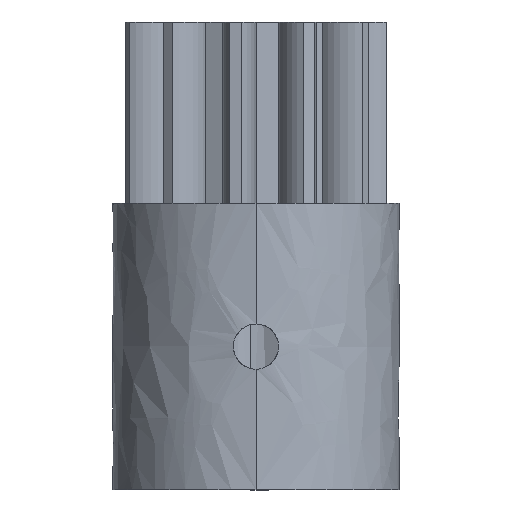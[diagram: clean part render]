
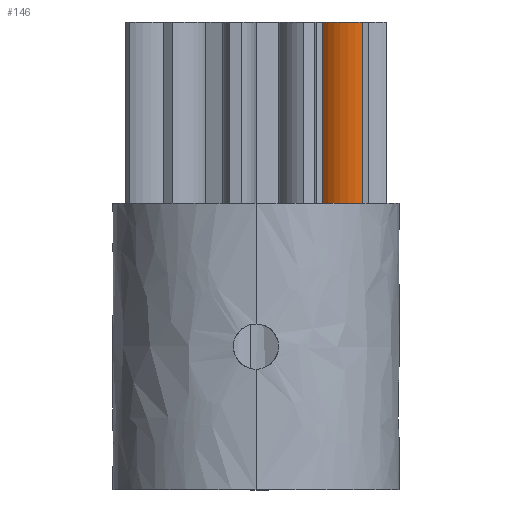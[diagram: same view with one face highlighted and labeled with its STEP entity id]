
A CAD part, front view. The second image highlights one B-rep face of the part: STEP entity #146.
In plain terms, the highlighted free-form (B-spline) face has degree [1, 2] with [2, 3] control points.
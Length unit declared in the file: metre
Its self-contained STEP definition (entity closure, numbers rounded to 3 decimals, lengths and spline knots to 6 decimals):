
#146 = ADVANCED_FACE( '', ( #317 ), #318, .T. );
#317 = FACE_OUTER_BOUND( '', #682, .T. );
#318 = ( BOUNDED_SURFACE(  )B_SPLINE_SURFACE( 1, 2, ( ( #685, #686, #687 ), ( #688, #689, #690 ) ), .UNSPECIFIED., .F., .F., .F. )B_SPLINE_SURFACE_WITH_KNOTS( ( 2, 2 ), ( 3, 3 ), ( 0., 1. ), ( 0., 1. ), .UNSPECIFIED. )GEOMETRIC_REPRESENTATION_ITEM(  )RATIONAL_B_SPLINE_SURFACE( ( ( 1., 0.875, 1. ), ( 1., 0.875, 1. ) ) )REPRESENTATION_ITEM( '' )SURFACE(  ) );
#682 = EDGE_LOOP( '', ( #1299, #1300, #1301, #1302 ) );
#685 = CARTESIAN_POINT( '', ( 0.004408, -0.004033, 0.031 ) );
#686 = CARTESIAN_POINT( '', ( 0.005431, -0.005275, 0.031 ) );
#687 = CARTESIAN_POINT( '', ( 0.007026, -0.005067, 0.031 ) );
#688 = CARTESIAN_POINT( '', ( 0.004408, -0.004033, 0.01901 ) );
#689 = CARTESIAN_POINT( '', ( 0.005431, -0.005275, 0.01901 ) );
#690 = CARTESIAN_POINT( '', ( 0.007026, -0.005067, 0.01901 ) );
#1299 = ORIENTED_EDGE( '', *, *, #1560, .T. );
#1300 = ORIENTED_EDGE( '', *, *, #1636, .T. );
#1301 = ORIENTED_EDGE( '', *, *, #1505, .F. );
#1302 = ORIENTED_EDGE( '', *, *, #1593, .T. );
#1505 = EDGE_CURVE( '', #1751, #1752, #1753, .T. );
#1560 = EDGE_CURVE( '', #1847, #1845, #1848, .T. );
#1593 = EDGE_CURVE( '', #1751, #1847, #1903, .T. );
#1636 = EDGE_CURVE( '', #1845, #1752, #1966, .T. );
#1751 = VERTEX_POINT( '', #2209 );
#1752 = VERTEX_POINT( '', #2210 );
#1753 = B_SPLINE_CURVE_WITH_KNOTS( '', 3, ( #2211, #2212, #2213, #2214, #2215, #2216, #2217, #2218, #2219, #2220, #2221, #2222 ), .UNSPECIFIED., .F., .F., ( 4, 2, 2, 2, 2, 4 ), ( 0., 0.2, 0.4, 0.6, 0.8, 1. ), .UNSPECIFIED. );
#1845 = VERTEX_POINT( '', #2741 );
#1847 = VERTEX_POINT( '', #2754 );
#1848 = ( BOUNDED_CURVE(  )B_SPLINE_CURVE( 1, ( #2757, #2758 ), .UNSPECIFIED., .F., .F. )B_SPLINE_CURVE_WITH_KNOTS( ( 2, 2 ), ( 0., 1. ), .UNSPECIFIED. )CURVE(  )GEOMETRIC_REPRESENTATION_ITEM(  )RATIONAL_B_SPLINE_CURVE( ( 1., 1. ) )REPRESENTATION_ITEM( '' ) );
#1903 = ( BOUNDED_CURVE(  )B_SPLINE_CURVE( 2, ( #3111, #3112, #3113 ), .UNSPECIFIED., .F., .F. )B_SPLINE_CURVE_WITH_KNOTS( ( 3, 3 ), ( 0., 1. ), .UNSPECIFIED. )CURVE(  )GEOMETRIC_REPRESENTATION_ITEM(  )RATIONAL_B_SPLINE_CURVE( ( 1., 0.875, 1. ) )REPRESENTATION_ITEM( '' ) );
#1966 = ( BOUNDED_CURVE(  )B_SPLINE_CURVE( 2, ( #3534, #3535, #3536 ), .UNSPECIFIED., .F., .F. )B_SPLINE_CURVE_WITH_KNOTS( ( 3, 3 ), ( 0., 1. ), .UNSPECIFIED. )CURVE(  )GEOMETRIC_REPRESENTATION_ITEM(  )RATIONAL_B_SPLINE_CURVE( ( 1., 0.875, 1. ) )REPRESENTATION_ITEM( '' ) );
#2209 = CARTESIAN_POINT( '', ( 0.004408, -0.004033, 0.01901 ) );
#2210 = CARTESIAN_POINT( '', ( 0.004408, -0.004033, 0.031 ) );
#2211 = CARTESIAN_POINT( '', ( 0.004408, -0.004033, 0.01901 ) );
#2212 = CARTESIAN_POINT( '', ( 0.004408, -0.004033, 0.019809 ) );
#2213 = CARTESIAN_POINT( '', ( 0.004408, -0.004033, 0.020609 ) );
#2214 = CARTESIAN_POINT( '', ( 0.004408, -0.004033, 0.022207 ) );
#2215 = CARTESIAN_POINT( '', ( 0.004408, -0.004033, 0.023007 ) );
#2216 = CARTESIAN_POINT( '', ( 0.004408, -0.004033, 0.024605 ) );
#2217 = CARTESIAN_POINT( '', ( 0.004408, -0.004033, 0.025405 ) );
#2218 = CARTESIAN_POINT( '', ( 0.004408, -0.004033, 0.027003 ) );
#2219 = CARTESIAN_POINT( '', ( 0.004408, -0.004033, 0.027803 ) );
#2220 = CARTESIAN_POINT( '', ( 0.004408, -0.004033, 0.029401 ) );
#2221 = CARTESIAN_POINT( '', ( 0.004408, -0.004033, 0.030201 ) );
#2222 = CARTESIAN_POINT( '', ( 0.004408, -0.004033, 0.031 ) );
#2741 = CARTESIAN_POINT( '', ( 0.007026, -0.005067, 0.031 ) );
#2754 = CARTESIAN_POINT( '', ( 0.007026, -0.005067, 0.01901 ) );
#2757 = CARTESIAN_POINT( '', ( 0.007026, -0.005067, 0.01901 ) );
#2758 = CARTESIAN_POINT( '', ( 0.007026, -0.005067, 0.031 ) );
#3111 = CARTESIAN_POINT( '', ( 0.004408, -0.004033, 0.01901 ) );
#3112 = CARTESIAN_POINT( '', ( 0.005431, -0.005275, 0.01901 ) );
#3113 = CARTESIAN_POINT( '', ( 0.007026, -0.005067, 0.01901 ) );
#3534 = CARTESIAN_POINT( '', ( 0.007026, -0.005067, 0.031 ) );
#3535 = CARTESIAN_POINT( '', ( 0.005431, -0.005275, 0.031 ) );
#3536 = CARTESIAN_POINT( '', ( 0.004408, -0.004033, 0.031 ) );
